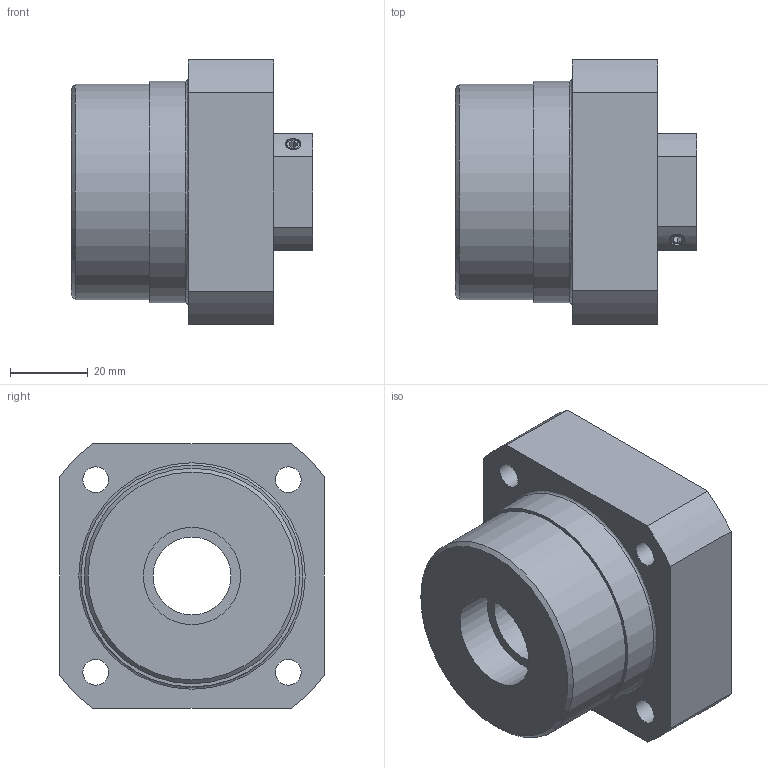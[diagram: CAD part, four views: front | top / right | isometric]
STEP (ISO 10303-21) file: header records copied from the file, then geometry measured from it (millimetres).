
FILE_DESCRIPTION((''),'2;1');
FILE_NAME('D:\製品 (図面)\カタログ用3D\ネジ関連\STEP形式\SUF\SUF20.stp','2010-06-02T14:49:14',('Tsuchiya'),(''),'Autodesk Inventor 10','Autodesk Inventor 10','');
FILE_SCHEMA(('AUTOMOTIVE_DESIGN { 1 0 10303 214 1 1 1 1 }'));
Length unit declared in the file: millimetre
Products named in the file (1): SUF20
Bounding box: 62 x 68 x 68 mm (x, y, z)
Volume: 151541.9 mm3; surface area: 29610.5 mm2
Topology: 1 solids, 1 shells, 104 faces, 225 edges, 148 vertices
Faces by surface type: plane 57, bspline 21, cylinder 20, torus 4, cone 2
Full cylindrical faces by diameter (mm): 4 x1, 10 x4, 20 x1, 25 x1, 25.5 x1, 26 x1, 38 x1, 55.4 x1, 57 x1
Entity records: 2971 total; most frequent: CARTESIAN_POINT 779, DIRECTION 430, ORIENTED_EDGE 388, EDGE_CURVE 194, EDGE_LOOP 170, AXIS2_PLACEMENT_3D 154, VERTEX_POINT 148, VECTOR 122
